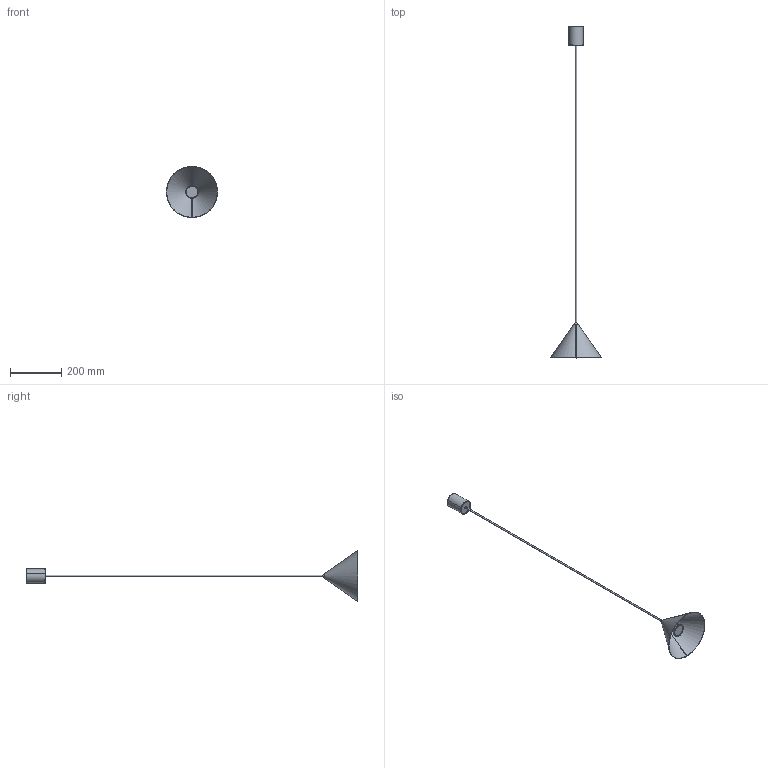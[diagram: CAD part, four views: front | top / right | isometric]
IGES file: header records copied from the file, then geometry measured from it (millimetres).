
Start section: SolidWorks IGES file using analytic representation for surfaces
Global section: file name: Z:\Modele 3D_WWW\_KOLEKCJE_WWW\ZENITH\ZENITH-S-7996-7997-7998-8000\ZENITH-S-7996-7997-7998-8000.IGS; native system: SolidWorks 2020; preprocessor: SolidWorks 2020; author: gabriela.tworek; date: 210316.075150; units: millimetre
Bounding box: 200 x 1300 x 200 mm (x, y, z)
Surface area: 182489.2 mm2 (no closed solid volume)
Topology: 0 solids, 0 shells, 126 faces, 2863 edges, 2863 vertices
Faces by surface type: revolution 72, bspline 54
